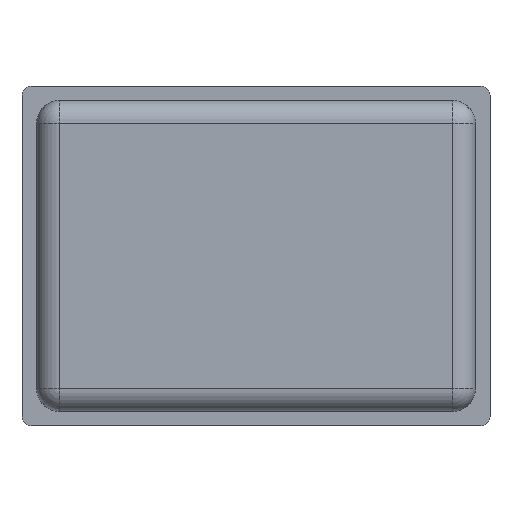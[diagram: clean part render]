
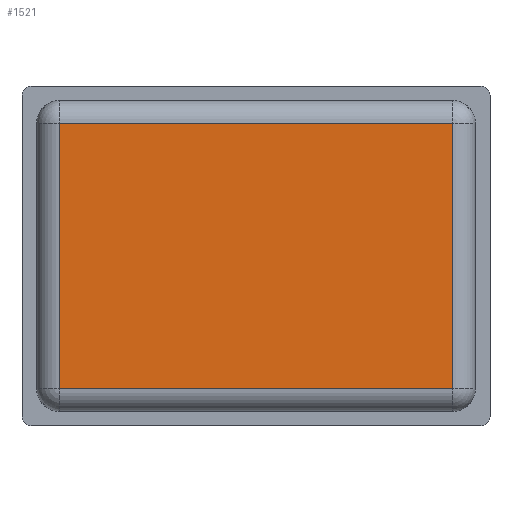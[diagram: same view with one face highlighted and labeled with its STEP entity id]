
A CAD part, front view. The second image highlights one B-rep face of the part: STEP entity #1521.
In plain terms, the highlighted planar face has unit normal (0, -1, 0).
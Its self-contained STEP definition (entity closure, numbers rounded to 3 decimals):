
#71 = ORIENTED_EDGE ( 'NONE', *, *, #712, .T. ) ;
#82 = AXIS2_PLACEMENT_3D ( 'NONE', #1503, #1489, #1481 ) ;
#191 = VERTEX_POINT ( 'NONE', #1364 ) ;
#220 = VECTOR ( 'NONE', #1316, 1000. ) ;
#336 = LINE ( 'NONE', #1427, #220 ) ;
#383 = VECTOR ( 'NONE', #1329, 1000. ) ;
#452 = EDGE_LOOP ( 'NONE', ( #653, #630, #71, #484 ) ) ;
#484 = ORIENTED_EDGE ( 'NONE', *, *, #716, .T. ) ;
#586 = CARTESIAN_POINT ( 'NONE',  ( 21.5, -17., -14.5 ) ) ;
#630 = ORIENTED_EDGE ( 'NONE', *, *, #709, .T. ) ;
#653 = ORIENTED_EDGE ( 'NONE', *, *, #706, .T. ) ;
#706 = EDGE_CURVE ( 'NONE', #875, #943, #1079, .T. ) ;
#709 = EDGE_CURVE ( 'NONE', #943, #191, #997, .T. ) ;
#712 = EDGE_CURVE ( 'NONE', #191, #725, #1564, .T. ) ;
#716 = EDGE_CURVE ( 'NONE', #725, #875, #336, .T. ) ;
#725 = VERTEX_POINT ( 'NONE', #1312 ) ;
#830 = CARTESIAN_POINT ( 'NONE',  ( -21.5, -17., -14.5 ) ) ;
#875 = VERTEX_POINT ( 'NONE', #830 ) ;
#943 = VERTEX_POINT ( 'NONE', #586 ) ;
#946 = FACE_OUTER_BOUND ( 'NONE', #452, .T. ) ;
#997 = LINE ( 'NONE', #1383, #1527 ) ;
#1079 = LINE ( 'NONE', #1394, #1294 ) ;
#1294 = VECTOR ( 'NONE', #1368, 1000. ) ;
#1312 = CARTESIAN_POINT ( 'NONE',  ( -21.5, -17., 14.5 ) ) ;
#1316 = DIRECTION ( 'NONE',  ( 0., 0., -1. ) ) ;
#1329 = DIRECTION ( 'NONE',  ( -1., 0., 0. ) ) ;
#1334 = CARTESIAN_POINT ( 'NONE',  ( -21.5, -17., 14.5 ) ) ;
#1337 = DIRECTION ( 'NONE',  ( 0., 0., 1. ) ) ;
#1364 = CARTESIAN_POINT ( 'NONE',  ( 21.5, -17., 14.5 ) ) ;
#1368 = DIRECTION ( 'NONE',  ( 1., 0., 0. ) ) ;
#1383 = CARTESIAN_POINT ( 'NONE',  ( 21.5, -17., 14.5 ) ) ;
#1394 = CARTESIAN_POINT ( 'NONE',  ( 21.5, -17., -14.5 ) ) ;
#1427 = CARTESIAN_POINT ( 'NONE',  ( -21.5, -17., -14.5 ) ) ;
#1481 = DIRECTION ( 'NONE',  ( 0., 0., 1. ) ) ;
#1489 = DIRECTION ( 'NONE',  ( 0., 1., 0. ) ) ;
#1491 = PLANE ( 'NONE',  #82 ) ;
#1503 = CARTESIAN_POINT ( 'NONE',  ( 0., -17., 0. ) ) ;
#1521 = ADVANCED_FACE ( 'NONE', ( #946 ), #1491, .F. ) ;
#1527 = VECTOR ( 'NONE', #1337, 1000. ) ;
#1564 = LINE ( 'NONE', #1334, #383 ) ;
